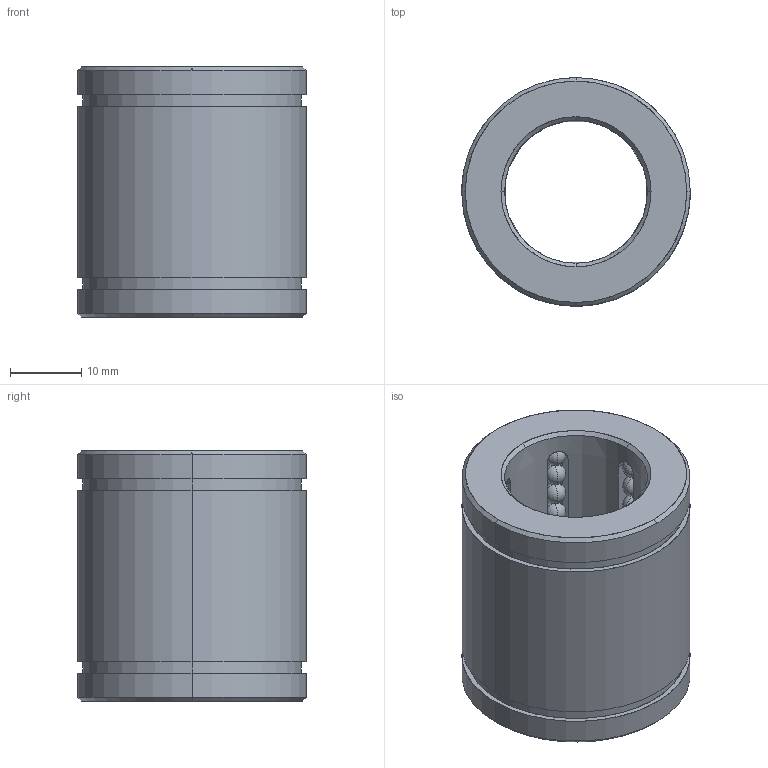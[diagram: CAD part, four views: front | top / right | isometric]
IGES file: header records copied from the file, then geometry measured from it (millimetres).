
Start section: START RECORD GO HERE.
Global section: file name: B8032035.igs; native system: DASSAULT SYSTEMES CATIA V5 R20 - www.3ds.com; preprocessor: CATIA Version 5 Release 20 ; author: Utente; organization: NB04-ASUS; date: 20200419.161725; units: millimetre
Bounding box: 32 x 32 x 35 mm (x, y, z)
Surface area: 9477.2 mm2 (no closed solid volume)
Topology: 0 solids, 0 shells, 280 faces, 1172 edges, 740 vertices
Faces by surface type: revolution 256, plane 24
